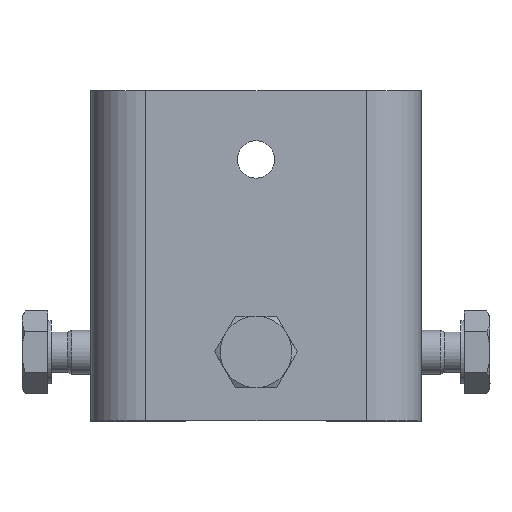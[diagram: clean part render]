
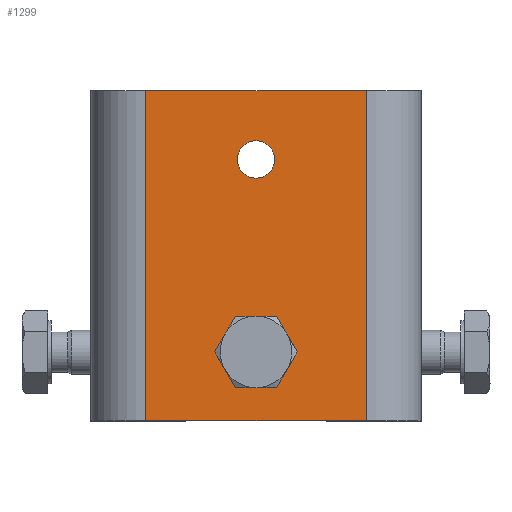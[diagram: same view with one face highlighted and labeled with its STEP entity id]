
A CAD part, top view. The second image highlights one B-rep face of the part: STEP entity #1299.
In plain terms, the highlighted planar face has unit normal (0, 0, 1).
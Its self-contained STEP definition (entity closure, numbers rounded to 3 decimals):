
#55=FACE_BOUND('',#184,.T.);
#56=FACE_BOUND('',#185,.T.);
#98=FACE_OUTER_BOUND('',#183,.T.);
#183=EDGE_LOOP('',(#881,#882,#883,#884));
#184=EDGE_LOOP('',(#885,#886));
#185=EDGE_LOOP('',(#887));
#284=LINE('',#2050,#395);
#286=LINE('',#2054,#397);
#287=LINE('',#2056,#398);
#288=LINE('',#2057,#399);
#395=VECTOR('',#1625,10.);
#397=VECTOR('',#1629,10.);
#398=VECTOR('',#1630,10.);
#399=VECTOR('',#1631,10.);
#504=CIRCLE('',#1452,3.324);
#505=CIRCLE('',#1453,3.324);
#506=CIRCLE('',#1454,3.4);
#569=VERTEX_POINT('',#2034);
#572=VERTEX_POINT('',#2041);
#574=VERTEX_POINT('',#2053);
#575=VERTEX_POINT('',#2055);
#576=VERTEX_POINT('',#2058);
#577=VERTEX_POINT('',#2059);
#578=VERTEX_POINT('',#2062);
#686=EDGE_CURVE('',#569,#572,#284,.T.);
#688=EDGE_CURVE('',#572,#574,#286,.T.);
#689=EDGE_CURVE('',#574,#575,#287,.T.);
#690=EDGE_CURVE('',#575,#569,#288,.T.);
#691=EDGE_CURVE('',#576,#577,#504,.T.);
#692=EDGE_CURVE('',#577,#576,#505,.T.);
#693=EDGE_CURVE('',#578,#578,#506,.T.);
#881=ORIENTED_EDGE('',*,*,#686,.T.);
#882=ORIENTED_EDGE('',*,*,#688,.T.);
#883=ORIENTED_EDGE('',*,*,#689,.T.);
#884=ORIENTED_EDGE('',*,*,#690,.T.);
#885=ORIENTED_EDGE('',*,*,#691,.T.);
#886=ORIENTED_EDGE('',*,*,#692,.T.);
#887=ORIENTED_EDGE('',*,*,#693,.T.);
#1245=PLANE('',#1451);
#1299=ADVANCED_FACE('',(#98,#55,#56),#1245,.T.);
#1451=AXIS2_PLACEMENT_3D('',#2052,#1627,#1628);
#1452=AXIS2_PLACEMENT_3D('',#2060,#1632,#1633);
#1453=AXIS2_PLACEMENT_3D('',#2061,#1634,#1635);
#1454=AXIS2_PLACEMENT_3D('',#2063,#1636,#1637);
#1625=DIRECTION('',(0.,1.,0.));
#1627=DIRECTION('center_axis',(0.,0.,1.));
#1628=DIRECTION('ref_axis',(1.,0.,0.));
#1629=DIRECTION('',(-1.,0.,0.));
#1630=DIRECTION('',(0.,-1.,0.));
#1631=DIRECTION('',(1.,0.,0.));
#1632=DIRECTION('center_axis',(0.,0.,-1.));
#1633=DIRECTION('ref_axis',(1.,0.,0.));
#1634=DIRECTION('center_axis',(0.,0.,-1.));
#1635=DIRECTION('ref_axis',(1.,0.,0.));
#1636=DIRECTION('center_axis',(0.,0.,-1.));
#1637=DIRECTION('ref_axis',(-1.,0.,0.));
#2034=CARTESIAN_POINT('',(20.,-30.,0.));
#2041=CARTESIAN_POINT('',(20.,30.,0.));
#2050=CARTESIAN_POINT('',(20.,15.,0.));
#2052=CARTESIAN_POINT('Origin',(65.,0.,0.));
#2053=CARTESIAN_POINT('',(-20.,30.,0.));
#2054=CARTESIAN_POINT('',(81.679,30.,0.));
#2055=CARTESIAN_POINT('',(-20.,-30.,0.));
#2056=CARTESIAN_POINT('',(-20.,-15.,0.));
#2057=CARTESIAN_POINT('',(-81.679,-30.,0.));
#2058=CARTESIAN_POINT('',(3.324,-17.5,0.));
#2059=CARTESIAN_POINT('',(-3.324,-17.5,0.));
#2060=CARTESIAN_POINT('Origin',(0.,-17.5,0.));
#2061=CARTESIAN_POINT('Origin',(0.,-17.5,0.));
#2062=CARTESIAN_POINT('',(3.4,17.5,0.));
#2063=CARTESIAN_POINT('Origin',(0.,17.5,0.));
